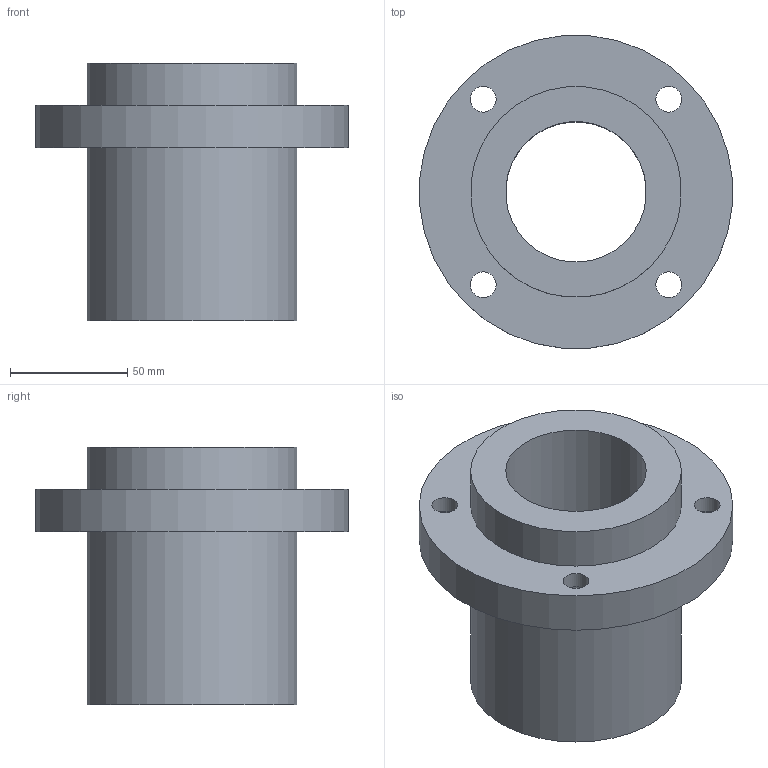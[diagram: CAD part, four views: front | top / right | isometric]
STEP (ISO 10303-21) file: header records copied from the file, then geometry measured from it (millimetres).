
FILE_DESCRIPTION(/* description */ (''),/* implementation_level */ '2;1');
FILE_NAME(/* name */ 'LMFP60UU',/* time_stamp */ '2019-07-03T11:34:08+02:00',/* author */ ('VĂ©gh MĂˇtĂ©'),/* organization */ ('Bearing Kft'),/* preprocessor_version */ 'ST-DEVELOPER v16.7',/* originating_system */ 'DEX',/* authorisation */ $);
FILE_SCHEMA (('AUTOMOTIVE_DESIGN {1 0 10303 214 3 1 1}'));
Length unit declared in the file: millimetre
Products named in the file (1): LMFP60UU
Bounding box: 133.49 x 133.49 x 110 mm (x, y, z)
Volume: 515384.8 mm3; surface area: 79487.4 mm2
Topology: 1 solids, 1 shells, 324 faces, 805 edges, 538 vertices
Faces by surface type: plane 248, bspline 63, cylinder 13
Full cylindrical faces by diameter (mm): 11 x4, 17 x4, 60 x1, 90 x2, 134 x1
Entity records: 13267 total; most frequent: CARTESIAN_POINT 5971, ORIENTED_EDGE 1570, DIRECTION 1209, EDGE_CURVE 785, LINE 633, VECTOR 633, VERTEX_POINT 534, EDGE_LOOP 405
